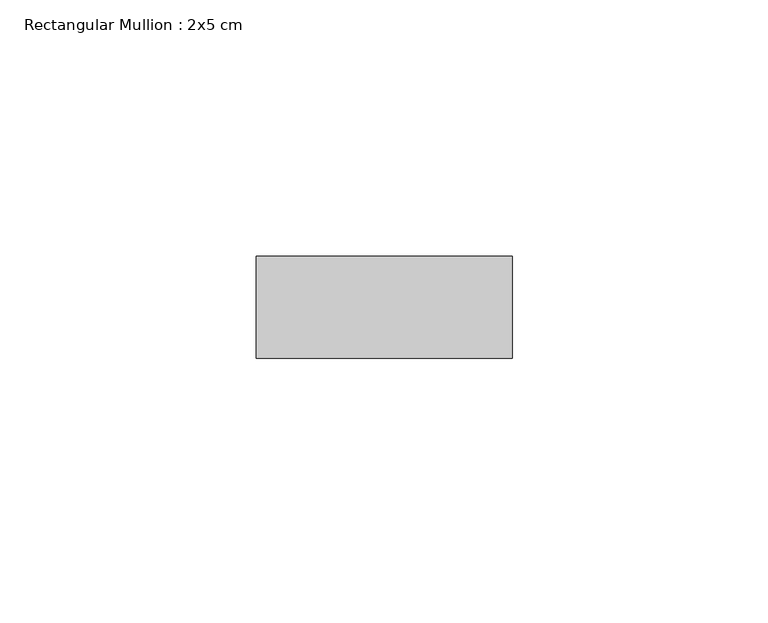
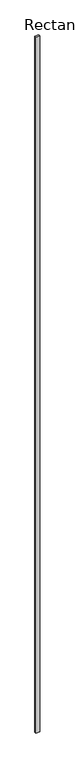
"""IFC4 building model written with IfcOpenShell, lengths in millimetres: member geometry, Rectangular Mullion : 2x5 cm."""

from ifc_helpers import new_model, si_unit, frame, origin, place, context, project, spatial, polyline, outline, extrude, source, transform, mapped, element, save


def rectangular_mullion_2x5_cm_edb1142a(model_context):
    return source(origin(), model_context, "Body", "SweptSolid", [
        extrude(outline(polyline([(50.0, 20.0), (50.0, 0.0), (0.0, 0.0), (0.0, 20.0), (50.0, 20.0)])), frame((0.0, 0.0, -9543.106381), z_axis=(0.0, 0.0, 1.0), x_axis=(1.0, 0.0, 0.0)), (0.0, 0.0, 1.0), 9543.106381),
    ])


if __name__ == "__main__":
    model = new_model("IFC4")
    model_context = context("Model", 3, world=origin())
    ifc_project = project(units=[si_unit("LENGTHUNIT", "METRE", prefix="MILLI")], contexts=[model_context])
    site = spatial("IfcSite", under=ifc_project)
    building = spatial("IfcBuilding", under=site)
    placement = place(None, origin())
    rectangular_mullion_2x5_cm_shape = rectangular_mullion_2x5_cm_edb1142a(model_context)
    element("IfcMember", 1, ObjectType="Rectangular Mullion : 2x5 cm", at=placement, inside=building, context=model_context, shape_type="MappedRepresentation", body=[
        mapped(rectangular_mullion_2x5_cm_shape, transform((0.0, 0.0, 0.0), x_axis=(1.0, 0.0, 0.0), y_axis=(0.0, 1.0, 0.0), z_axis=(0.0, 0.0, 1.0))),
    ])
    save(model, "model.ifc")
